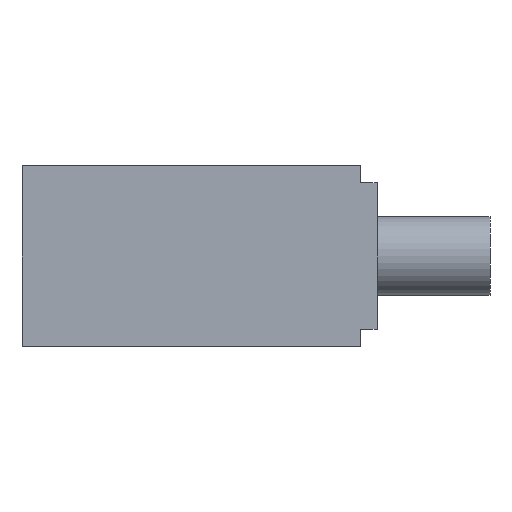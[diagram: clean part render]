
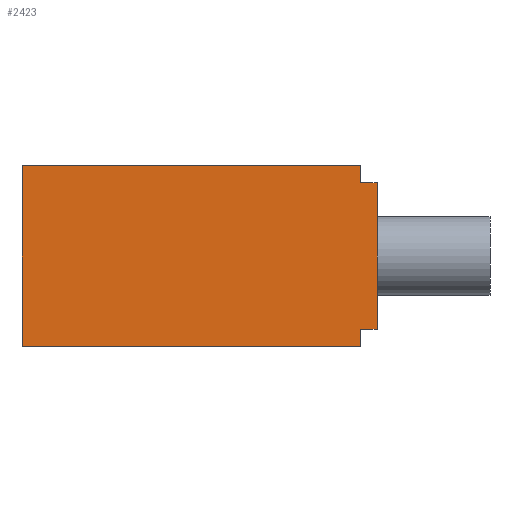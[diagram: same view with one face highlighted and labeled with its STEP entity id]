
A CAD part, front view. The second image highlights one B-rep face of the part: STEP entity #2423.
In plain terms, the highlighted planar face has unit normal (0, -1, 0) as drawn and (0, 0, -1) by its records, which use the part's own axes.
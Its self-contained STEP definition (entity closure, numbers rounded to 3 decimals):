
#263=PLANE('',#2705);
#362=LINE('',#4017,#500);
#366=LINE('',#4028,#504);
#374=LINE('',#4043,#512);
#406=LINE('',#4146,#544);
#422=LINE('',#4191,#560);
#438=LINE('',#4224,#576);
#441=LINE('',#4229,#579);
#442=LINE('',#4231,#580);
#500=VECTOR('',#3185,13.);
#504=VECTOR('',#3193,1.5);
#512=VECTOR('',#3201,1.5);
#544=VECTOR('',#3305,30.);
#560=VECTOR('',#3349,16.);
#576=VECTOR('',#3387,30.);
#579=VECTOR('',#3394,1.5);
#580=VECTOR('',#3397,1.5);
#729=FACE_OUTER_BOUND('',#919,.T.);
#919=EDGE_LOOP('',(#2229,#2230,#2231,#2232,#2233,#2234,#2235,#2236));
#1194=VERTEX_POINT('',#4014);
#1195=VERTEX_POINT('',#4016);
#1197=VERTEX_POINT('',#4021);
#1199=VERTEX_POINT('',#4025);
#1200=VERTEX_POINT('',#4027);
#1207=VERTEX_POINT('',#4041);
#1242=VERTEX_POINT('',#4144);
#1257=VERTEX_POINT('',#4189);
#1484=EDGE_CURVE('',#1195,#1194,#362,.T.);
#1489=EDGE_CURVE('',#1200,#1199,#366,.T.);
#1497=EDGE_CURVE('',#1197,#1207,#374,.T.);
#1546=EDGE_CURVE('',#1207,#1242,#406,.T.);
#1568=EDGE_CURVE('',#1257,#1242,#422,.T.);
#1585=EDGE_CURVE('',#1257,#1200,#438,.T.);
#1588=EDGE_CURVE('',#1199,#1195,#441,.T.);
#1589=EDGE_CURVE('',#1197,#1194,#442,.T.);
#2229=ORIENTED_EDGE('',*,*,#1484,.T.);
#2230=ORIENTED_EDGE('',*,*,#1589,.F.);
#2231=ORIENTED_EDGE('',*,*,#1497,.T.);
#2232=ORIENTED_EDGE('',*,*,#1546,.T.);
#2233=ORIENTED_EDGE('',*,*,#1568,.F.);
#2234=ORIENTED_EDGE('',*,*,#1585,.T.);
#2235=ORIENTED_EDGE('',*,*,#1489,.T.);
#2236=ORIENTED_EDGE('',*,*,#1588,.T.);
#2423=ADVANCED_FACE('',(#729),#263,.T.);
#2705=AXIS2_PLACEMENT_3D('',#4230,#3395,#3396);
#3185=DIRECTION('',(0.,-1.,0.));
#3193=DIRECTION('',(0.,-1.,0.));
#3201=DIRECTION('',(0.,-1.,0.));
#3305=DIRECTION('',(-1.,0.,0.));
#3349=DIRECTION('',(0.,-1.,0.));
#3387=DIRECTION('',(1.,0.,0.));
#3394=DIRECTION('',(1.,0.,0.));
#3395=DIRECTION('center_axis',(0.,0.,-1.));
#3396=DIRECTION('ref_axis',(-1.,0.,0.));
#3397=DIRECTION('',(1.,0.,0.));
#4014=CARTESIAN_POINT('',(16.5,-14.5,-40.));
#4016=CARTESIAN_POINT('',(16.5,-1.5,-40.));
#4017=CARTESIAN_POINT('',(16.5,-1.5,-40.));
#4021=CARTESIAN_POINT('',(15.,-14.5,-40.));
#4025=CARTESIAN_POINT('',(15.,-1.5,-40.));
#4027=CARTESIAN_POINT('',(15.,0.,-40.));
#4028=CARTESIAN_POINT('',(15.,0.,-40.));
#4041=CARTESIAN_POINT('',(15.,-16.,-40.));
#4043=CARTESIAN_POINT('',(15.,-14.5,-40.));
#4144=CARTESIAN_POINT('',(-15.,-16.,-40.));
#4146=CARTESIAN_POINT('',(15.,-16.,-40.));
#4189=CARTESIAN_POINT('',(-15.,0.,-40.));
#4191=CARTESIAN_POINT('',(-15.,0.,-40.));
#4224=CARTESIAN_POINT('',(-15.,0.,-40.));
#4229=CARTESIAN_POINT('',(15.,-1.5,-40.));
#4230=CARTESIAN_POINT('Origin',(15.,-1.5,-40.));
#4231=CARTESIAN_POINT('',(15.,-14.5,-40.));
